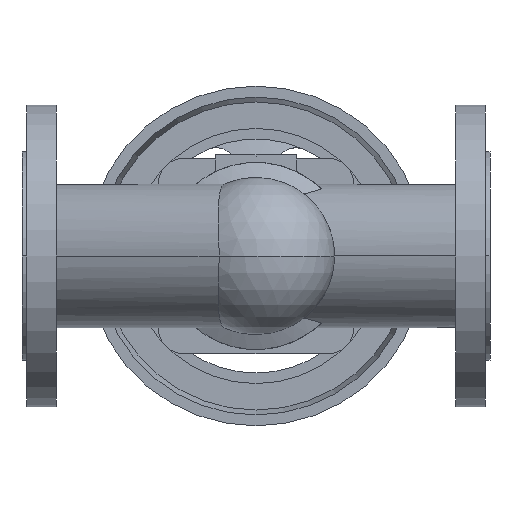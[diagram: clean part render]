
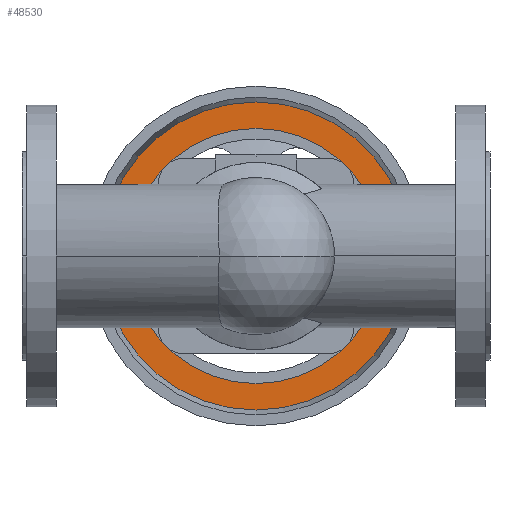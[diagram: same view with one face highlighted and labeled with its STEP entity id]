
A CAD part, front view. The second image highlights one B-rep face of the part: STEP entity #48530.
In plain terms, the highlighted planar face has unit normal (0, -1, 0).
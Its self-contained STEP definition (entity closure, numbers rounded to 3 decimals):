
#47980=CARTESIAN_POINT('',(257.038,378.5,0.))
;
#47990=VERTEX_POINT('',#47980);
#48020=CARTESIAN_POINT('',(155.,378.5,0.));
#48030=DIRECTION('',(0.,1.,0.));
#48040=DIRECTION('',(-1.,0.,0.));
#48050=AXIS2_PLACEMENT_3D('',#48020,#48030,#48040);
#48060=CIRCLE('',#48050,102.038);
#48070=CARTESIAN_POINT('',(52.962,378.5,0.));
#48080=VERTEX_POINT('',#48070);
#48090=EDGE_CURVE('',#48080,#47990,#48060,.T.);
#48280=CARTESIAN_POINT('',(61.731,378.5,0.))
;
#48290=DIRECTION('',(0.,-1.,0.));
#48300=DIRECTION('',(1.,0.,0.));
#48310=AXIS2_PLACEMENT_3D('',#48280,#48290,#48300);
#48320=PLANE('',#48310);
#48330=ORIENTED_EDGE('',*,*,#48090,.F.);
#48340=EDGE_CURVE('',#47990,#48080,#48060,.T.);
#48350=ORIENTED_EDGE('',*,*,#48340,.F.);
#48360=EDGE_LOOP('',(#48350,#48330));
#48370=FACE_OUTER_BOUND('',#48360,.T.);
#48380=CARTESIAN_POINT('',(155.,378.5,0.));
#48390=DIRECTION('',(0.,1.,0.));
#48400=DIRECTION('',(-1.,0.,0.));
#48410=AXIS2_PLACEMENT_3D('',#48380,#48390,#48400);
#48420=CIRCLE('',#48410,84.5);
#48430=CARTESIAN_POINT('',(70.5,378.5,0.));
#48440=VERTEX_POINT('',#48430);
#48450=CARTESIAN_POINT('',(239.5,378.5,0.));
#48460=VERTEX_POINT('',#48450);
#48470=EDGE_CURVE('',#48440,#48460,#48420,.T.);
#48480=ORIENTED_EDGE('',*,*,#48470,.T.);
#48490=EDGE_CURVE('',#48460,#48440,#48420,.T.);
#48500=ORIENTED_EDGE('',*,*,#48490,.T.);
#48510=EDGE_LOOP('',(#48500,#48480));
#48520=FACE_BOUND('',#48510,.T.);
#48530=ADVANCED_FACE('',(#48370,#48520),#48320,.T.);
